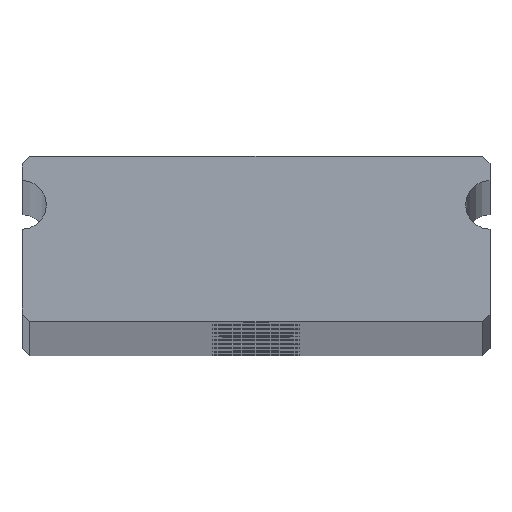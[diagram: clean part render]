
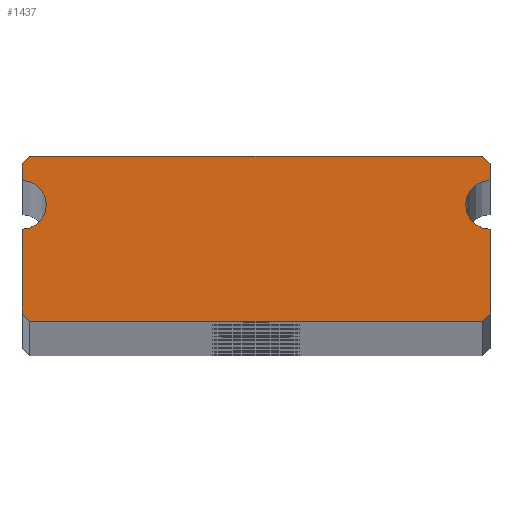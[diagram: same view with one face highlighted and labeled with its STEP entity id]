
A CAD part, top view. The second image highlights one B-rep face of the part: STEP entity #1437.
In plain terms, the highlighted planar face has unit normal (0, 0, 1).
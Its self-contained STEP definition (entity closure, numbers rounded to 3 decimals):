
#11 = LINE ( 'NONE', #1055, #3476 ) ;
#14 = DIRECTION ( 'NONE',  ( 0.707, 0.707, 0. ) ) ;
#92 = VERTEX_POINT ( 'NONE', #4122 ) ;
#103 = VERTEX_POINT ( 'NONE', #3864 ) ;
#106 = VECTOR ( 'NONE', #2432, 1000. ) ;
#111 = CARTESIAN_POINT ( 'NONE',  ( -12., -0.341, 1000. ) ) ;
#200 = CARTESIAN_POINT ( 'NONE',  ( -12., 3.009, 1000. ) ) ;
#232 = LINE ( 'NONE', #2910, #752 ) ;
#265 = DIRECTION ( 'NONE',  ( 0., 1., 0. ) ) ;
#283 = CARTESIAN_POINT ( 'NONE',  ( 12., -0.341, 1000. ) ) ;
#314 = ORIENTED_EDGE ( 'NONE', *, *, #3013, .T. ) ;
#339 = CARTESIAN_POINT ( 'NONE',  ( 12., 2.159, 1000. ) ) ;
#348 = EDGE_CURVE ( 'NONE', #1803, #103, #3520, .T. ) ;
#386 = ORIENTED_EDGE ( 'NONE', *, *, #1119, .T. ) ;
#438 = ORIENTED_EDGE ( 'NONE', *, *, #2641, .T. ) ;
#440 = LINE ( 'NONE', #1388, #2874 ) ;
#441 = CARTESIAN_POINT ( 'NONE',  ( -12., -0.341, 1000. ) ) ;
#447 = EDGE_CURVE ( 'NONE', #3226, #2252, #1069, .T. ) ;
#456 = DIRECTION ( 'NONE',  ( 0., 0., 1. ) ) ;
#613 = ORIENTED_EDGE ( 'NONE', *, *, #1663, .T. ) ;
#740 = VERTEX_POINT ( 'NONE', #3372 ) ;
#752 = VECTOR ( 'NONE', #2586, 1000. ) ;
#816 = CARTESIAN_POINT ( 'NONE',  ( -12., 3.009, 1000. ) ) ;
#858 = CARTESIAN_POINT ( 'NONE',  ( -12., -4.691, 1000. ) ) ;
#900 = DIRECTION ( 'NONE',  ( 1., 0., 0. ) ) ;
#910 = ORIENTED_EDGE ( 'NONE', *, *, #1293, .F. ) ;
#921 = ORIENTED_EDGE ( 'NONE', *, *, #3713, .T. ) ;
#982 = DIRECTION ( 'NONE',  ( -0.707, -0.707, 0. ) ) ;
#1055 = CARTESIAN_POINT ( 'NONE',  ( 12., 3.009, 1000. ) ) ;
#1069 = LINE ( 'NONE', #3991, #4004 ) ;
#1119 = EDGE_CURVE ( 'NONE', #4340, #2757, #232, .T. ) ;
#1203 = ORIENTED_EDGE ( 'NONE', *, *, #2999, .T. ) ;
#1250 = DIRECTION ( 'NONE',  ( 0., 0., 1. ) ) ;
#1267 = DIRECTION ( 'NONE',  ( 0., -1., 0. ) ) ;
#1269 = CARTESIAN_POINT ( 'NONE',  ( 12., 0.909, 1000. ) ) ;
#1270 = AXIS2_PLACEMENT_3D ( 'NONE', #1690, #3420, #3055 ) ;
#1293 = EDGE_CURVE ( 'NONE', #3404, #3643, #3499, .T. ) ;
#1388 = CARTESIAN_POINT ( 'NONE',  ( 11.6, -5.091, 1000. ) ) ;
#1437 = ADVANCED_FACE ( 'NONE', ( #2247 ), #1559, .T. ) ;
#1559 = PLANE ( 'NONE',  #2907 ) ;
#1663 = EDGE_CURVE ( 'NONE', #1986, #3226, #4097, .T. ) ;
#1690 = CARTESIAN_POINT ( 'NONE',  ( -12., 0.909, 1000. ) ) ;
#1704 = VECTOR ( 'NONE', #1874, 1000. ) ;
#1803 = VERTEX_POINT ( 'NONE', #111 ) ;
#1874 = DIRECTION ( 'NONE',  ( 0.707, -0.707, 0. ) ) ;
#1939 = DIRECTION ( 'NONE',  ( 0., 0., 1. ) ) ;
#1986 = VERTEX_POINT ( 'NONE', #2345 ) ;
#2186 = ORIENTED_EDGE ( 'NONE', *, *, #2560, .F. ) ;
#2189 = ORIENTED_EDGE ( 'NONE', *, *, #3607, .T. ) ;
#2199 = VECTOR ( 'NONE', #3103, 1000. ) ;
#2247 = FACE_OUTER_BOUND ( 'NONE', #2766, .T. ) ;
#2252 = VERTEX_POINT ( 'NONE', #816 ) ;
#2310 = VERTEX_POINT ( 'NONE', #283 ) ;
#2325 = ORIENTED_EDGE ( 'NONE', *, *, #3997, .T. ) ;
#2328 = DIRECTION ( 'NONE',  ( 1., 0., 0. ) ) ;
#2345 = CARTESIAN_POINT ( 'NONE',  ( 11.6, 3.409, 1000. ) ) ;
#2381 = CARTESIAN_POINT ( 'NONE',  ( 12., -4.691, 1000. ) ) ;
#2432 = DIRECTION ( 'NONE',  ( -1., 0., 0. ) ) ;
#2491 = CARTESIAN_POINT ( 'NONE',  ( 10.75, 0.909, 1000. ) ) ;
#2535 = LINE ( 'NONE', #858, #1704 ) ;
#2560 = EDGE_CURVE ( 'NONE', #3643, #2310, #2775, .T. ) ;
#2586 = DIRECTION ( 'NONE',  ( 1., 0., 0. ) ) ;
#2641 = EDGE_CURVE ( 'NONE', #740, #1986, #11, .T. ) ;
#2678 = CARTESIAN_POINT ( 'NONE',  ( 11.6, 3.409, 1000. ) ) ;
#2748 = CARTESIAN_POINT ( 'NONE',  ( -11.6, -5.091, 1000. ) ) ;
#2757 = VERTEX_POINT ( 'NONE', #3039 ) ;
#2766 = EDGE_LOOP ( 'NONE', ( #921, #386, #3935, #2189, #2186, #910, #1203, #438, #613, #3131, #314, #4079, #2325 ) ) ;
#2775 = CIRCLE ( 'NONE', #3692, 1.25 ) ;
#2874 = VECTOR ( 'NONE', #14, 1000. ) ;
#2879 = DIRECTION ( 'NONE',  ( 1., 0., 0. ) ) ;
#2907 = AXIS2_PLACEMENT_3D ( 'NONE', #1269, #1939, #2328 ) ;
#2910 = CARTESIAN_POINT ( 'NONE',  ( -11.6, -5.091, 1000. ) ) ;
#2999 = EDGE_CURVE ( 'NONE', #3404, #740, #3604, .T. ) ;
#3013 = EDGE_CURVE ( 'NONE', #2252, #103, #3246, .T. ) ;
#3039 = CARTESIAN_POINT ( 'NONE',  ( 11.6, -5.091, 1000. ) ) ;
#3055 = DIRECTION ( 'NONE',  ( 1., 0., 0. ) ) ;
#3081 = DIRECTION ( 'NONE',  ( -0.707, 0.707, 0. ) ) ;
#3103 = DIRECTION ( 'NONE',  ( 0., -1., 0. ) ) ;
#3131 = ORIENTED_EDGE ( 'NONE', *, *, #447, .T. ) ;
#3178 = CARTESIAN_POINT ( 'NONE',  ( -12., -4.691, 1000. ) ) ;
#3226 = VERTEX_POINT ( 'NONE', #3464 ) ;
#3228 = VERTEX_POINT ( 'NONE', #3178 ) ;
#3241 = VECTOR ( 'NONE', #4151, 1000. ) ;
#3246 = LINE ( 'NONE', #200, #3926 ) ;
#3319 = CARTESIAN_POINT ( 'NONE',  ( 12., 0.909, 1000. ) ) ;
#3372 = CARTESIAN_POINT ( 'NONE',  ( 12., 3.009, 1000. ) ) ;
#3404 = VERTEX_POINT ( 'NONE', #339 ) ;
#3420 = DIRECTION ( 'NONE',  ( 0., 0., 1. ) ) ;
#3464 = CARTESIAN_POINT ( 'NONE',  ( -11.6, 3.409, 1000. ) ) ;
#3476 = VECTOR ( 'NONE', #3081, 1000. ) ;
#3499 = CIRCLE ( 'NONE', #4195, 1.25 ) ;
#3520 = CIRCLE ( 'NONE', #1270, 1.25 ) ;
#3575 = EDGE_CURVE ( 'NONE', #2757, #92, #440, .T. ) ;
#3604 = LINE ( 'NONE', #4209, #4172 ) ;
#3607 = EDGE_CURVE ( 'NONE', #92, #2310, #4043, .T. ) ;
#3643 = VERTEX_POINT ( 'NONE', #2491 ) ;
#3692 = AXIS2_PLACEMENT_3D ( 'NONE', #3319, #1250, #900 ) ;
#3713 = EDGE_CURVE ( 'NONE', #3228, #4340, #2535, .T. ) ;
#3864 = CARTESIAN_POINT ( 'NONE',  ( -12., 2.159, 1000. ) ) ;
#3885 = CARTESIAN_POINT ( 'NONE',  ( 12., 0.909, 1000. ) ) ;
#3926 = VECTOR ( 'NONE', #1267, 1000. ) ;
#3935 = ORIENTED_EDGE ( 'NONE', *, *, #3575, .T. ) ;
#3991 = CARTESIAN_POINT ( 'NONE',  ( -11.6, 3.409, 1000. ) ) ;
#3997 = EDGE_CURVE ( 'NONE', #1803, #3228, #4174, .T. ) ;
#4004 = VECTOR ( 'NONE', #982, 1000. ) ;
#4043 = LINE ( 'NONE', #2381, #3241 ) ;
#4079 = ORIENTED_EDGE ( 'NONE', *, *, #348, .F. ) ;
#4097 = LINE ( 'NONE', #2678, #106 ) ;
#4122 = CARTESIAN_POINT ( 'NONE',  ( 12., -4.691, 1000. ) ) ;
#4151 = DIRECTION ( 'NONE',  ( 0., 1., 0. ) ) ;
#4172 = VECTOR ( 'NONE', #265, 1000. ) ;
#4174 = LINE ( 'NONE', #441, #2199 ) ;
#4195 = AXIS2_PLACEMENT_3D ( 'NONE', #3885, #456, #2879 ) ;
#4209 = CARTESIAN_POINT ( 'NONE',  ( 12., 2.159, 1000. ) ) ;
#4340 = VERTEX_POINT ( 'NONE', #2748 ) ;
